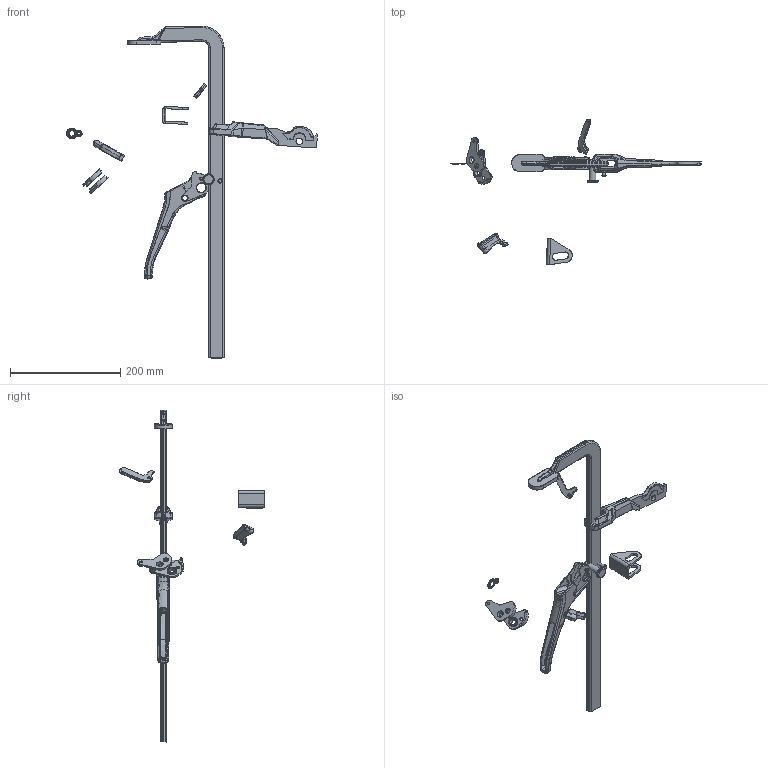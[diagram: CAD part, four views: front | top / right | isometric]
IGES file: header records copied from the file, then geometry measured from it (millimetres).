
Start section: ZWSOFT
Global section: file name: GH50_LC20_mod.igs; native system: ZW3D; preprocessor: 1.0; author: ZW3D; organization: ZWSOFT; date: 150410.145951; units: millimetre
Bounding box: 455.47 x 263.55 x 602.88 mm (x, y, z)
Surface area: 130072.8 mm2 (no closed solid volume)
Topology: 0 solids, 0 shells, 977 faces, 5199 edges, 5085 vertices
Faces by surface type: bspline 977
